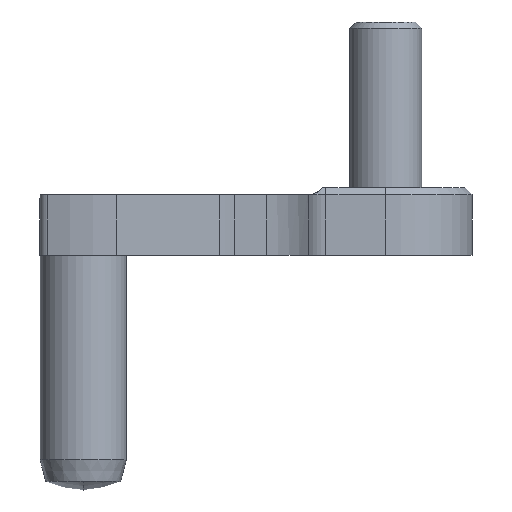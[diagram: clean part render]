
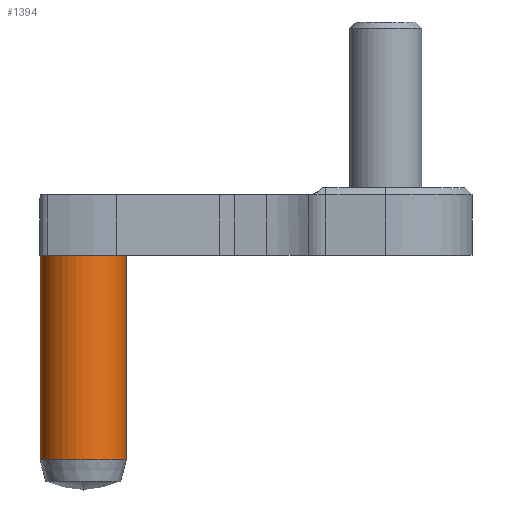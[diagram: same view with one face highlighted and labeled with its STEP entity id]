
A CAD part, front view. The second image highlights one B-rep face of the part: STEP entity #1394.
In plain terms, the highlighted cylindrical face has radius 3 mm (diameter 6 mm), a partial arc.
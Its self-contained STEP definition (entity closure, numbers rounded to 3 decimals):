
#118 = DIRECTION ( 'NONE',  ( -1., 0., 0. ) ) ;
#224 = EDGE_CURVE ( 'NONE', #1848, #443, #1719, .T. ) ;
#253 = EDGE_CURVE ( 'NONE', #1504, #443, #357, .T. ) ;
#357 = LINE ( 'NONE', #1727, #474 ) ;
#413 = CARTESIAN_POINT ( 'NONE',  ( 2.1, 0., -3. ) ) ;
#434 = DIRECTION ( 'NONE',  ( -1., 0., 0. ) ) ;
#443 = VERTEX_POINT ( 'NONE', #1369 ) ;
#474 = VECTOR ( 'NONE', #1998, 1000. ) ;
#570 = ORIENTED_EDGE ( 'NONE', *, *, #833, .F. ) ;
#698 = DIRECTION ( 'NONE',  ( 0., 0., 1. ) ) ;
#731 = VERTEX_POINT ( 'NONE', #2542 ) ;
#833 = EDGE_CURVE ( 'NONE', #731, #1848, #2257, .T. ) ;
#842 = CIRCLE ( 'NONE', #2993, 3. ) ;
#893 = VECTOR ( 'NONE', #118, 1000. ) ;
#984 = DIRECTION ( 'NONE',  ( -1., 0., 0. ) ) ;
#1105 = EDGE_LOOP ( 'NONE', ( #570, #2653, #2940, #1946 ) ) ;
#1266 = CYLINDRICAL_SURFACE ( 'NONE', #1822, 3. ) ;
#1369 = CARTESIAN_POINT ( 'NONE',  ( 2.1, 0., 3. ) ) ;
#1394 = ADVANCED_FACE ( 'NONE', ( #2838 ), #1266, .T. ) ;
#1500 = CARTESIAN_POINT ( 'NONE',  ( -10., 0., 0. ) ) ;
#1504 = VERTEX_POINT ( 'NONE', #2412 ) ;
#1719 = CIRCLE ( 'NONE', #2788, 3. ) ;
#1727 = CARTESIAN_POINT ( 'NONE',  ( -10., 0., 3. ) ) ;
#1822 = AXIS2_PLACEMENT_3D ( 'NONE', #1500, #2227, #2492 ) ;
#1848 = VERTEX_POINT ( 'NONE', #413 ) ;
#1946 = ORIENTED_EDGE ( 'NONE', *, *, #224, .F. ) ;
#1998 = DIRECTION ( 'NONE',  ( -1., 0., 0. ) ) ;
#2227 = DIRECTION ( 'NONE',  ( -1., 0., 0. ) ) ;
#2257 = LINE ( 'NONE', #2409, #893 ) ;
#2261 = DIRECTION ( 'NONE',  ( 0., 0., 1. ) ) ;
#2267 = CARTESIAN_POINT ( 'NONE',  ( 2.1, 0., 0. ) ) ;
#2409 = CARTESIAN_POINT ( 'NONE',  ( -10., 0., -3. ) ) ;
#2412 = CARTESIAN_POINT ( 'NONE',  ( 19.2, 0., 3. ) ) ;
#2492 = DIRECTION ( 'NONE',  ( 0., 0., 1. ) ) ;
#2542 = CARTESIAN_POINT ( 'NONE',  ( 19.2, 0., -3. ) ) ;
#2653 = ORIENTED_EDGE ( 'NONE', *, *, #2783, .T. ) ;
#2783 = EDGE_CURVE ( 'NONE', #731, #1504, #842, .T. ) ;
#2788 = AXIS2_PLACEMENT_3D ( 'NONE', #2267, #434, #698 ) ;
#2838 = FACE_OUTER_BOUND ( 'NONE', #1105, .T. ) ;
#2940 = ORIENTED_EDGE ( 'NONE', *, *, #253, .T. ) ;
#2993 = AXIS2_PLACEMENT_3D ( 'NONE', #3008, #984, #2261 ) ;
#3008 = CARTESIAN_POINT ( 'NONE',  ( 19.2, 0., 0. ) ) ;
